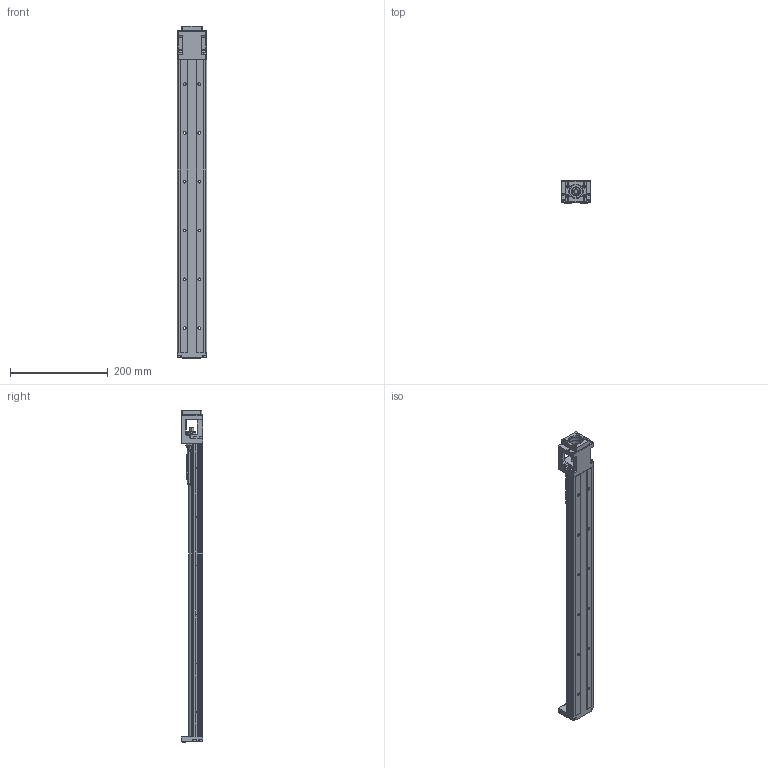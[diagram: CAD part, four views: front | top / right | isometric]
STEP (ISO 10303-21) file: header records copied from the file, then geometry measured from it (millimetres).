
FILE_DESCRIPTION (( 'STEP AP214' ), '1' );
FILE_NAME ('7.0119 KT6010C-600A1-F1.STEP', '2026-03-17T11:39:00', ( '' ), ( '' ), 'SwSTEP 2.0', 'SolidWorks 2025', '' );
FILE_SCHEMA (( 'AUTOMOTIVE_DESIGN' ));
Length unit declared in the file: millimetre
Products named in the file (4): KT60-A1_1; KT-60-F1 Delta 100W motor plate; KT60-K0_600; 7.0119 KT6010C-600A1-F1
Assembly tree (3 placements, depth 2):
  7.0119 KT6010C-600A1-F1
    KT60-K0_600
    KT60-A1_1
    KT-60-F1 Delta 100W motor plate
Bounding box: 60 x 44.5 x 680.2 mm (x, y, z)
Volume: 622292.6 mm3; surface area: 203228 mm2
Topology: 22 solids, 22 shells, 1466 faces, 3871 edges, 2465 vertices
Faces by surface type: plane 695, cylinder 552, cone 124, torus 63, bspline 17, sphere 15
Entity records: 64350 total; most frequent: CARTESIAN_POINT 12760, DIRECTION 7769, ORIENTED_EDGE 7616, EDGE_CURVE 3808, AXIS2_PLACEMENT_3D 2749, VERTEX_POINT 2465, LINE 2271, VECTOR 2271
